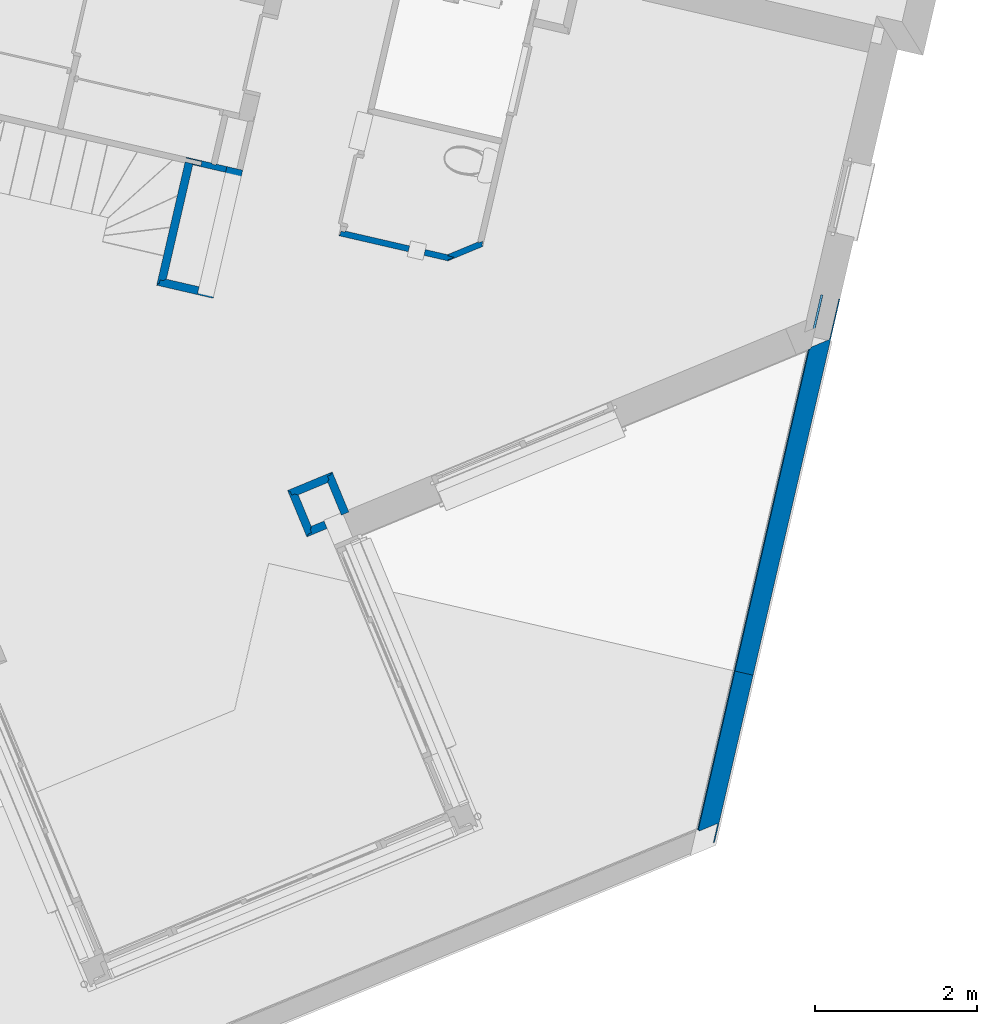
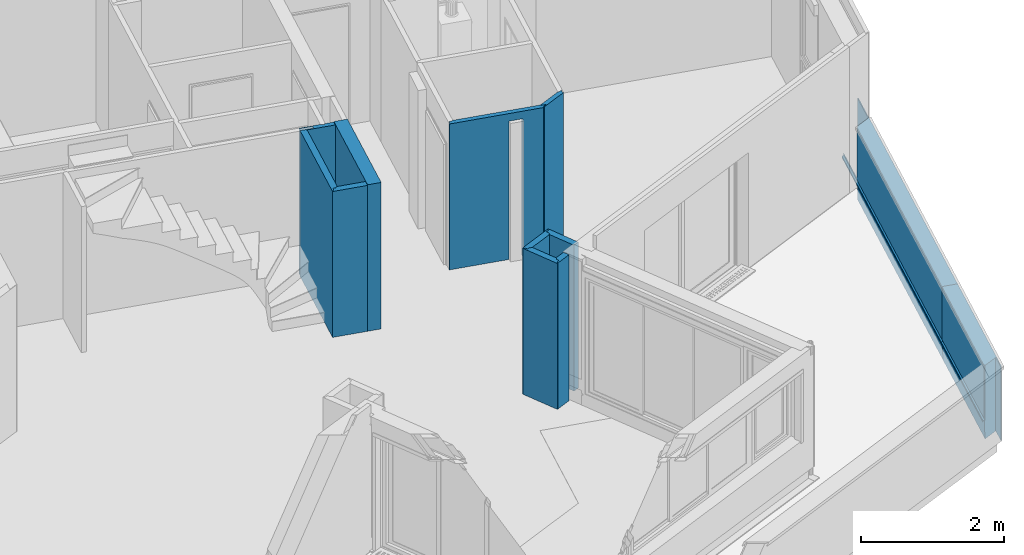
# One storey, part 23 of 62: 12 walls.
"""IFC2X3 building model written with IfcOpenShell, lengths in metres."""

from ifc_helpers import new_model, entity, si_unit, converted_unit, derived_unit, money_unit, direction, frame, origin_with_axes, place, context, subcontext, project, spatial, faceted_brep, material, material_list, type_object, element, save


model = new_model("IFC2X3")

# Units and contexts
model_context = context("Model", 3, precision=1e-05, world=origin_with_axes(), true_north=direction((0.0, 1.0)))
body_context = subcontext(model_context, "Body", "Model", "MODEL_VIEW")
ifc_project = project(units=[si_unit("LENGTHUNIT", "METRE"), si_unit("AREAUNIT", "SQUARE_METRE"), si_unit("VOLUMEUNIT", "CUBIC_METRE"), converted_unit("PLANEANGLEUNIT", "DEGREE", entity("IfcPlaneAngleMeasure", 0.0174532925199), si_unit("PLANEANGLEUNIT", "RADIAN"), dimensions=[0, 0, 0, 0, 0, 0, 0]), si_unit("SOLIDANGLEUNIT", "STERADIAN"), money_unit("EUR"), converted_unit("TIMEUNIT", "Year", entity("IfcTimeMeasure", 31556926.0), si_unit("TIMEUNIT", "SECOND"), dimensions=[0, 0, 1, 0, 0, 0, 0]), si_unit("MASSUNIT", "GRAM", prefix="KILO"), si_unit("THERMODYNAMICTEMPERATUREUNIT", "DEGREE_CELSIUS"), si_unit("LUMINOUSINTENSITYUNIT", "LUMEN"), si_unit("ENERGYUNIT", "JOULE", prefix="MEGA"), derived_unit("THERMALCONDUCTANCEUNIT", [(si_unit("POWERUNIT", "WATT"), 1), (si_unit("LENGTHUNIT", "METRE"), -1), (si_unit("THERMODYNAMICTEMPERATUREUNIT", "KELVIN"), -1)]), derived_unit("SPECIFICHEATCAPACITYUNIT", [(si_unit("ENERGYUNIT", "JOULE"), 1), (si_unit("MASSUNIT", "GRAM", prefix="KILO"), -1), (si_unit("THERMODYNAMICTEMPERATUREUNIT", "KELVIN"), -1)]), derived_unit("MASSDENSITYUNIT", [(si_unit("MASSUNIT", "GRAM", prefix="KILO"), 1), (si_unit("VOLUMEUNIT", "CUBIC_METRE"), -1)])], contexts=[model_context])

# Site, building, storey
site_placement = place(None, origin_with_axes())
site = spatial("IfcSite", under=ifc_project, at=site_placement, Name="Site", CompositionType="ELEMENT")
building_placement = place(site_placement, origin_with_axes())
building = spatial("IfcBuilding", under=site, at=building_placement, Name="Bâtiment", CompositionType="ELEMENT")
storey_placement = place(building_placement, frame((0.0, 0.0, 8.16), z_axis=(0.0, 0.0, 1.0), x_axis=(1.0, 0.0, 0.0)))
storey = spatial("IfcBuildingStorey", under=building, at=storey_placement, Name="R+3", CompositionType="ELEMENT", Elevation=8.16)

# Walls
ifc_material_1 = material(Name="Finition int - Plaque de plâtre")
ifc_material_2 = material(Name="Isolation - Laine de roche")
ifc_material_list_1 = material_list([ifc_material_1, ifc_material_2, ifc_material_1])
wall_type_1 = type_object("IfcWallType", Name="3 - Cloison 72mm Placostil 74", PredefinedType="USERDEFINED")
wall_1_placement = place(storey_placement, frame((-13.6505641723, -11.8454133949, 0.0), z_axis=(0.0, 0.0, 1.0), x_axis=(-0.974387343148, 0.224876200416, 0.0)))
element("IfcWall", 1, at=wall_1_placement, inside=storey, type_object=wall_type_1, material=ifc_material_list_1, Name="Cloison Placostil 72/48", ObjectType="PARTITIONING", context=body_context, shape_type="Brep", body=[
    faceted_brep([(0.0, -0.013, 2.5), (0.427359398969, -0.013, 2.5), (0.427359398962, 0.0, 2.5), (0.0, 0.0, 2.5), (0.0, -0.013, 0.0), (0.427359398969, -0.013, 0.0), (0.427359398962, 0.0, 0.0), (0.0, 0.0, 0.0)], [[[0, 1, 2, 3]], [[4, 5, 1, 0]], [[6, 2, 1, 5]], [[3, 2, 6, 7]], [[7, 4, 0, 3]], [[7, 6, 5, 4]]]),
    faceted_brep([(0.0, -0.061, 0.0), (0.314359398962, -0.061, 0.0), (0.314359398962, -0.061, 2.5), (0.0, -0.061, 2.5), (0.0, -0.013, 0.0), (0.314359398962, -0.013, 0.0), (0.314359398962, -0.013, 2.5), (0.0, -0.013, 2.5)], [[[0, 1, 2, 3]], [[4, 5, 1, 0]], [[5, 6, 2, 1]], [[3, 2, 6, 7]], [[4, 0, 3, 7]], [[7, 6, 5, 4]]]),
    faceted_brep([(0.185000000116, -0.074, 2.5), (0.501359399, -0.074, 2.5), (0.501359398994, -0.061, 2.5), (0.185000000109, -0.061, 2.5), (0.185000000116, -0.074, 0.0), (0.501359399, -0.074, 0.0), (0.501359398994, -0.061, 0.0), (0.185000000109, -0.061, 0.0)], [[[0, 1, 2, 3]], [[4, 5, 1, 0]], [[6, 2, 1, 5]], [[3, 2, 6, 7]], [[7, 4, 0, 3]], [[7, 6, 5, 4]]]),
    faceted_brep([(0.137000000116, -0.074, 2.5), (0.137000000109, -0.061, 2.5), (0.0, -0.061, 2.5), (0.0, -0.074, 2.5), (0.137000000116, -0.074, 0.0), (0.137000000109, -0.061, 0.0), (0.0, -0.061, 0.0), (0.0, -0.074, 0.0)], [[[0, 1, 2, 3]], [[1, 0, 4, 5]], [[1, 5, 6, 2]], [[7, 3, 2, 6]], [[4, 0, 3, 7]], [[5, 4, 7, 6]]]),
])
wall_2_placement = place(storey_placement, frame((-10.9081748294, -12.93707176, 0.0), z_axis=(0.0, 0.0, 1.0), x_axis=(0.923701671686, 0.383112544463, 0.0)))
element("IfcWall", 2, at=wall_2_placement, inside=storey, type_object=wall_type_1, material=ifc_material_list_1, Name="Cloison Placostil 72/48", ObjectType="PARTITIONING", context=body_context, shape_type="Brep", body=[
    faceted_brep([(0.441531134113, 0.074, 0.0), (0.432250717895, 0.061, 0.0), (0.0419137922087, 0.061, 0.0), (0.0237034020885, 0.074, 0.0), (0.441531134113, 0.074, 2.5), (0.432250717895, 0.061, 2.5), (0.0419137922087, 0.061, 2.5), (0.0237034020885, 0.074, 2.5)], [[[0, 1, 2, 3]], [[1, 0, 4, 5]], [[1, 5, 6, 2]], [[7, 3, 2, 6]], [[4, 0, 3, 7]], [[5, 4, 7, 6]]]),
    faceted_brep([(0.491226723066, 0.061, 0.0), (0.456960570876, 0.013, 0.0), (0.0867776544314, 0.013, 0.0), (0.0195392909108, 0.061, 0.0), (0.491226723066, 0.061, 2.5), (0.456960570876, 0.013, 2.5), (0.0867776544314, 0.013, 2.5), (0.0195392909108, 0.061, 2.5)], [[[0, 1, 2, 3]], [[1, 0, 4, 5]], [[1, 5, 6, 2]], [[7, 3, 2, 6]], [[4, 0, 3, 7]], [[5, 4, 7, 6]]]),
    faceted_brep([(0.472933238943, 0.013, 0.0), (0.463652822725, 0.0, 0.0), (0.0223745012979, 0.0, 0.0), (0.00416411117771, 0.013, 0.0), (0.472933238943, 0.013, 2.5), (0.463652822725, 0.0, 2.5), (0.0223745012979, 0.0, 2.5), (0.00416411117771, 0.013, 2.5)], [[[0, 1, 2, 3]], [[1, 0, 4, 5]], [[1, 5, 6, 2]], [[7, 3, 2, 6]], [[4, 0, 3, 7]], [[5, 4, 7, 6]]]),
])
wall_3_placement = place(storey_placement, frame((-12.1823202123, -12.6430152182, 0.0), z_axis=(0.0, 0.0, 1.0), x_axis=(0.974387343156, -0.224876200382, 0.0)))
element("IfcWall", 3, at=wall_3_placement, inside=storey, type_object=wall_type_1, material=ifc_material_list_1, Name="Cloison Placostil 72/48", ObjectType="PARTITIONING", context=body_context, shape_type="Brep", body=[
    faceted_brep([(0.804407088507, 0.074, 2.37), (0.804407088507, 0.074, 0.0), (-0.0130000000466, 0.074, 0.0), (-0.0130000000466, 0.074, 2.5), (1.30630855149, 0.074, 2.5), (1.30630855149, 0.074, 0.0), (1.00440708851, 0.074, 0.0), (1.00440708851, 0.074, 2.37), (0.804407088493, 0.061, 2.37), (0.804407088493, 0.061, 0.0), (-0.0130000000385, 0.061, 0.0), (-0.0130000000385, 0.061, 2.5), (1.28809816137, 0.061, 2.5), (1.28809816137, 0.061, 0.0), (1.00440708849, 0.061, 0.0), (1.00440708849, 0.061, 2.37)], [[[0, 1, 2, 3, 4, 5, 6, 7]], [[1, 0, 8, 9]], [[1, 9, 10, 2]], [[11, 3, 2, 10]], [[11, 12, 4, 3]], [[12, 13, 5, 4]], [[14, 6, 5, 13]], [[7, 6, 14, 15]], [[0, 7, 15, 8]], [[15, 14, 13, 12, 11, 10, 9, 8]]]),
    faceted_brep([(0.804407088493, 0.061, 2.37), (0.804407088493, 0.061, 0.0), (-0.0610000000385, 0.061, 0.0), (-0.0610000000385, 0.061, 2.5), (1.37071170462, 0.061, 2.5), (1.37071170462, 0.061, 0.0), (1.00440708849, 0.061, 0.0), (1.00440708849, 0.061, 2.37), (0.804407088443, 0.013, 2.37), (0.804407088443, 0.013, 0.0), (-0.0610000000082, 0.013, 0.0), (-0.0610000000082, 0.013, 2.5), (1.3034733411, 0.013, 2.5), (1.3034733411, 0.013, 0.0), (1.00440708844, 0.013, 0.0), (1.00440708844, 0.013, 2.37)], [[[0, 1, 2, 3, 4, 5, 6, 7]], [[1, 0, 8, 9]], [[1, 9, 10, 2]], [[11, 3, 2, 10]], [[11, 12, 4, 3]], [[12, 13, 5, 4]], [[14, 6, 5, 13]], [[7, 6, 14, 15]], [[0, 7, 15, 8]], [[15, 14, 13, 12, 11, 10, 9, 8]]]),
    faceted_brep([(0.804407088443, 0.013, 2.37), (0.804407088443, 0.013, 0.0), (-0.0740000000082, 0.013, 0.0), (-0.0740000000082, 0.013, 2.5), (1.3258478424, 0.013, 2.5), (1.3258478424, 0.013, 0.0), (1.00440708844, 0.013, 0.0), (1.00440708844, 0.013, 2.37), (0.804407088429, 0.0, 2.37), (0.804407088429, 0.0, 0.0), (-0.074, 0.0, 0.0), (-0.074, 0.0, 2.5), (1.30763745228, 0.0, 2.5), (1.30763745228, 0.0, 0.0), (1.00440708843, 0.0, 0.0), (1.00440708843, 0.0, 2.37)], [[[0, 1, 2, 3, 4, 5, 6, 7]], [[1, 0, 8, 9]], [[1, 9, 10, 2]], [[11, 3, 2, 10]], [[11, 12, 4, 3]], [[12, 13, 5, 4]], [[14, 6, 5, 13]], [[7, 6, 14, 15]], [[0, 7, 15, 8]], [[15, 14, 13, 12, 11, 10, 9, 8]]]),
])
ifc_material_3 = material(Name="Finition int - Enduit plâtre")
ifc_material_4 = material(Name="Béton")
ifc_material_list_2 = material_list([ifc_material_3, ifc_material_4, ifc_material_3])
wall_type_2 = type_object("IfcWallType", Name="2 - Murs Béton 18 + Enduit 2 Faces 200", PredefinedType="USERDEFINED")
wall_4_placement = place(storey_placement, frame((-13.4487897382, -11.8160352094, 0.0), z_axis=(0.0, 0.0, 1.0), x_axis=(-0.22487619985, -0.974387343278, 0.0)))
element("IfcWall", 4, at=wall_4_placement, inside=storey, type_object=wall_type_2, material=ifc_material_list_2, Name="M_Ext-009", ObjectType="SOLIDWALL", context=body_context, shape_type="Brep", body=[
    faceted_brep([(0.0, 0.0, 2.51), (0.0, 0.01, 2.51), (0.0, 0.01, 0.0), (0.0, 0.0, 0.0), (1.62099999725, 0.01, 2.51), (1.62099999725, 0.0, 2.51), (1.62099999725, 0.01, 0.0), (1.62099999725, 0.0, 0.0)], [[[0, 1, 2, 3]], [[4, 1, 0, 5]], [[1, 4, 6, 2]], [[2, 6, 7, 3]], [[5, 0, 3, 7]], [[4, 5, 7, 6]]]),
    faceted_brep([(0.0, -0.18, 2.51), (0.0, 0.0, 2.51), (0.0, 0.0, 0.0), (0.0, -0.18, 0.0), (1.62099999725, 0.0, 2.51), (1.62099999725, -0.18, 2.51), (1.62099999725, 0.0, 0.0), (1.62099999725, -0.18, 0.0)], [[[0, 1, 2, 3]], [[4, 1, 0, 5]], [[1, 4, 6, 2]], [[2, 6, 7, 3]], [[5, 0, 3, 7]], [[4, 5, 7, 6]]]),
    faceted_brep([(0.0, -0.19, 2.51), (0.0, -0.18, 2.51), (0.0, -0.18, 0.0), (0.0, -0.19, 0.0), (1.62099999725, -0.18, 2.51), (1.62099999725, -0.19, 2.51), (1.62099999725, -0.18, 0.0), (1.62099999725, -0.19, 0.0)], [[[0, 1, 2, 3]], [[4, 1, 0, 5]], [[1, 4, 6, 2]], [[2, 6, 7, 3]], [[5, 0, 3, 7]], [[4, 5, 7, 6]]]),
])
ifc_material_list_3 = material_list([ifc_material_1, ifc_material_1, ifc_material_2, ifc_material_1, ifc_material_1])
wall_type_3 = type_object("IfcWallType", Name="3 - Cloison Gaine Technique 98mm 100", PredefinedType="USERDEFINED")
wall_5_placement = place(storey_placement, frame((-14.4771453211, -13.1396846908, 0.0), z_axis=(0.0, 0.0, 1.0), x_axis=(0.224876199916, 0.974387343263, 0.0)))
element("IfcWall", 5, at=wall_5_placement, inside=storey, type_object=wall_type_3, material=ifc_material_list_3, Name="Cloison 98 isolée", ObjectType="PARTITIONING", context=body_context, shape_type="Brep", body=[
    faceted_brep([(-0.087, -0.013, 0.0), (1.45999999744, -0.013, 0.0), (1.45999999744, -0.013, 2.5), (-0.087, -0.013, 2.5), (-0.087, 0.0, 0.0), (1.45999999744, 0.0, 0.0), (1.45999999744, 0.0, 2.5), (-0.087, 0.0, 2.5)], [[[0, 1, 2, 3]], [[4, 5, 1, 0]], [[5, 6, 2, 1]], [[3, 2, 6, 7]], [[4, 0, 3, 7]], [[7, 6, 5, 4]]]),
    faceted_brep([(1.52099999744, 0.0, 2.5), (1.50799999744, 0.0, 2.5), (1.50799999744, -0.013, 2.5), (1.52099999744, -0.013, 2.5), (1.52099999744, 0.0, 0.0), (1.50799999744, 0.0, 0.0), (1.50799999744, -0.013, 0.0), (1.52099999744, -0.013, 0.0)], [[[0, 1, 2, 3]], [[4, 5, 1, 0]], [[5, 6, 2, 1]], [[3, 2, 6, 7]], [[4, 0, 3, 7]], [[7, 6, 5, 4]]]),
    faceted_brep([(-0.074, -0.026, 0.0), (1.45999999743, -0.026, 0.0), (1.45999999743, -0.026, 2.5), (-0.074, -0.026, 2.5), (-0.074, -0.013, 0.0), (1.45999999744, -0.013, 0.0), (1.45999999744, -0.013, 2.5), (-0.074, -0.013, 2.5)], [[[0, 1, 2, 3]], [[4, 5, 1, 0]], [[5, 6, 2, 1]], [[3, 2, 6, 7]], [[4, 0, 3, 7]], [[7, 6, 5, 4]]]),
    faceted_brep([(-0.026, -0.074, 2.5), (1.4599999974, -0.074, 2.5), (1.45999999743, -0.026, 2.5), (-0.026, -0.026, 2.5), (-0.026, -0.074, 0.0), (1.4599999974, -0.074, 0.0), (1.45999999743, -0.026, 0.0), (-0.026, -0.026, 0.0)], [[[0, 1, 2, 3]], [[4, 5, 1, 0]], [[6, 2, 1, 5]], [[3, 2, 6, 7]], [[7, 4, 0, 3]], [[7, 6, 5, 4]]]),
    faceted_brep([(-0.013, -0.087, 2.5), (1.4599999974, -0.087, 2.5), (1.4599999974, -0.074, 2.5), (-0.013, -0.074, 2.5), (-0.013, -0.087, 0.0), (1.4599999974, -0.087, 0.0), (1.4599999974, -0.074, 0.0), (-0.013, -0.074, 0.0)], [[[0, 1, 2, 3]], [[4, 5, 1, 0]], [[6, 2, 1, 5]], [[3, 2, 6, 7]], [[7, 4, 0, 3]], [[7, 6, 5, 4]]]),
    faceted_brep([(0.0, -0.1, 2.5), (1.44699999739, -0.1, 2.5), (1.4469999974, -0.087, 2.5), (0.0, -0.087, 2.5), (0.0, -0.1, 0.0), (1.44699999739, -0.1, 0.0), (1.4469999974, -0.087, 0.0), (0.0, -0.087, 0.0)], [[[0, 1, 2, 3]], [[4, 5, 1, 0]], [[6, 2, 1, 5]], [[3, 2, 6, 7]], [[7, 4, 0, 3]], [[7, 6, 5, 4]]]),
])
wall_6_placement = place(storey_placement, frame((-12.33506708, -15.5385086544, 0.0), z_axis=(0.0, 0.0, 1.0), x_axis=(-0.923701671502, -0.383112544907, 0.0)))
element("IfcWall", 6, at=wall_6_placement, inside=storey, type_object=wall_type_3, material=ifc_material_list_3, Name="Cloison 98 isolée", ObjectType="PARTITIONING", context=body_context, shape_type="Brep", body=[
    faceted_brep([(0.50901583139, 0.1, 0.0), (0.509015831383, 0.087, 0.0), (0.100000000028, 0.087, 0.0), (0.100000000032, 0.1, 0.0), (0.50901583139, 0.1, 2.5), (0.509015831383, 0.087, 2.5), (0.100000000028, 0.087, 2.5), (0.100000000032, 0.1, 2.5)], [[[0, 1, 2, 3]], [[1, 0, 4, 5]], [[1, 5, 6, 2]], [[7, 3, 2, 6]], [[4, 0, 3, 7]], [[5, 4, 7, 6]]]),
    faceted_brep([(0.522015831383, 0.087, 0.0), (0.522015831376, 0.074, 0.0), (0.0870000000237, 0.074, 0.0), (0.0870000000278, 0.087, 0.0), (0.522015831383, 0.087, 2.5), (0.522015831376, 0.074, 2.5), (0.0870000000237, 0.074, 2.5), (0.0870000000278, 0.087, 2.5)], [[[0, 1, 2, 3]], [[1, 0, 4, 5]], [[1, 5, 6, 2]], [[7, 3, 2, 6]], [[4, 0, 3, 7]], [[5, 4, 7, 6]]]),
    faceted_brep([(0.570015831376, 0.074, 0.0), (0.570015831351, 0.026, 0.0), (0.0740000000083, 0.026, 0.0), (0.0740000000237, 0.074, 0.0), (0.570015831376, 0.074, 2.5), (0.570015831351, 0.026, 2.5), (0.0740000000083, 0.026, 2.5), (0.0740000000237, 0.074, 2.5)], [[[0, 1, 2, 3]], [[1, 0, 4, 5]], [[1, 5, 6, 2]], [[7, 3, 2, 6]], [[4, 0, 3, 7]], [[5, 4, 7, 6]]]),
    faceted_brep([(0.583015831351, 0.026, 0.0), (0.583015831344, 0.013, 0.0), (0.0260000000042, 0.013, 0.0), (0.0260000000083, 0.026, 0.0), (0.583015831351, 0.026, 2.5), (0.583015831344, 0.013, 2.5), (0.0260000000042, 0.013, 2.5), (0.0260000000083, 0.026, 2.5)], [[[0, 1, 2, 3]], [[1, 0, 4, 5]], [[1, 5, 6, 2]], [[7, 3, 2, 6]], [[4, 0, 3, 7]], [[5, 4, 7, 6]]]),
    faceted_brep([(0.596015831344, 0.013, 0.0), (0.596015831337, 0.0, 0.0), (0.013, 0.0, 0.0), (0.0130000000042, 0.013, 0.0), (0.596015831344, 0.013, 2.5), (0.596015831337, 0.0, 2.5), (0.013, 0.0, 2.5), (0.0130000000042, 0.013, 2.5)], [[[0, 1, 2, 3]], [[1, 0, 4, 5]], [[1, 5, 6, 2]], [[7, 3, 2, 6]], [[4, 0, 3, 7]], [[5, 4, 7, 6]]]),
])
wall_7_placement = place(storey_placement, frame((-12.8856078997, -15.7668497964, 0.0), z_axis=(0.0, 0.0, 1.0), x_axis=(0.383112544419, -0.923701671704, 0.0)))
element("IfcWall", 7, at=wall_7_placement, inside=storey, type_object=wall_type_3, material=ifc_material_list_3, Name="Cloison 98 isolée", ObjectType="PARTITIONING", context=body_context, shape_type="Brep", body=[
    faceted_brep([(0.532999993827, 0.1, 0.0), (0.532999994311, 0.087, 0.0), (0.0999999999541, 0.087, 0.0), (0.0999999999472, 0.1, 0.0), (0.532999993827, 0.1, 2.5), (0.532999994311, 0.087, 2.5), (0.0999999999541, 0.087, 2.5), (0.0999999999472, 0.1, 2.5)], [[[0, 1, 2, 3]], [[1, 0, 4, 5]], [[1, 5, 6, 2]], [[7, 3, 2, 6]], [[4, 0, 3, 7]], [[5, 4, 7, 6]]]),
    faceted_brep([(0.545999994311, 0.087, 0.0), (0.545999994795, 0.074, 0.0), (0.0869999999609, 0.074, 0.0), (0.0869999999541, 0.087, 0.0), (0.545999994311, 0.087, 2.5), (0.545999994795, 0.074, 2.5), (0.0869999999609, 0.074, 2.5), (0.0869999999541, 0.087, 2.5)], [[[0, 1, 2, 3]], [[1, 0, 4, 5]], [[1, 5, 6, 2]], [[7, 3, 2, 6]], [[4, 0, 3, 7]], [[5, 4, 7, 6]]]),
    faceted_brep([(0.593999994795, 0.074, 0.0), (0.593999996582, 0.026, 0.0), (0.0739999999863, 0.026, 0.0), (0.0739999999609, 0.074, 0.0), (0.593999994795, 0.074, 2.5), (0.593999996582, 0.026, 2.5), (0.0739999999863, 0.026, 2.5), (0.0739999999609, 0.074, 2.5)], [[[0, 1, 2, 3]], [[1, 0, 4, 5]], [[1, 5, 6, 2]], [[7, 3, 2, 6]], [[4, 0, 3, 7]], [[5, 4, 7, 6]]]),
    faceted_brep([(0.606999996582, 0.026, 0.0), (0.606999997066, 0.013, 0.0), (0.0259999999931, 0.013, 0.0), (0.0259999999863, 0.026, 0.0), (0.606999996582, 0.026, 2.5), (0.606999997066, 0.013, 2.5), (0.0259999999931, 0.013, 2.5), (0.0259999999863, 0.026, 2.5)], [[[0, 1, 2, 3]], [[1, 0, 4, 5]], [[1, 5, 6, 2]], [[7, 3, 2, 6]], [[4, 0, 3, 7]], [[5, 4, 7, 6]]]),
    faceted_brep([(0.619999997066, 0.013, 0.0), (0.619999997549, 0.0, 0.0), (0.013, 0.0, 0.0), (0.0129999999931, 0.013, 0.0), (0.619999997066, 0.013, 2.5), (0.619999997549, 0.0, 2.5), (0.013, 0.0, 2.5), (0.0129999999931, 0.013, 2.5)], [[[0, 1, 2, 3]], [[1, 0, 4, 5]], [[1, 5, 6, 2]], [[7, 3, 2, 6]], [[4, 0, 3, 7]], [[5, 4, 7, 6]]]),
])
wall_8_placement = place(storey_placement, frame((-12.1301018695, -16.0326890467, 0.0), z_axis=(0.0, 0.0, 1.0), x_axis=(-0.383112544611, 0.923701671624, 0.0)))
element("IfcWall", 8, at=wall_8_placement, inside=storey, type_object=wall_type_3, material=ifc_material_list_3, Name="Cloison 98 isolée", ObjectType="PARTITIONING", context=body_context, shape_type="Brep", body=[
    faceted_brep([(0.447999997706, 0.1, 0.0), (0.44799999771, 0.087, 0.0), (0.0, 0.087, 0.0), (0.0, 0.1, 0.0), (0.447999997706, 0.1, 2.5), (0.44799999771, 0.087, 2.5), (0.0, 0.087, 2.5), (0.0, 0.1, 2.5)], [[[0, 1, 2, 3]], [[1, 0, 4, 5]], [[1, 5, 6, 2]], [[7, 3, 2, 6]], [[4, 0, 3, 7]], [[5, 4, 7, 6]]]),
    faceted_brep([(0.46099999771, 0.087, 0.0), (0.460999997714, 0.074, 0.0), (0.0, 0.074, 0.0), (0.0, 0.087, 0.0), (0.46099999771, 0.087, 2.5), (0.460999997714, 0.074, 2.5), (0.0, 0.074, 2.5), (0.0, 0.087, 2.5)], [[[0, 1, 2, 3]], [[1, 0, 4, 5]], [[1, 5, 6, 2]], [[7, 3, 2, 6]], [[4, 0, 3, 7]], [[5, 4, 7, 6]]]),
    faceted_brep([(0.508999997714, 0.074, 0.0), (0.50899999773, 0.026, 0.0), (0.0, 0.026, 0.0), (0.0, 0.074, 0.0), (0.508999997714, 0.074, 2.5), (0.50899999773, 0.026, 2.5), (0.0, 0.026, 2.5), (0.0, 0.074, 2.5)], [[[0, 1, 2, 3]], [[1, 0, 4, 5]], [[1, 5, 6, 2]], [[7, 3, 2, 6]], [[4, 0, 3, 7]], [[5, 4, 7, 6]]]),
    faceted_brep([(0.52199999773, 0.026, 0.0), (0.521999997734, 0.013, 0.0), (0.0, 0.013, 0.0), (0.0, 0.026, 0.0), (0.52199999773, 0.026, 2.5), (0.521999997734, 0.013, 2.5), (0.0, 0.013, 2.5), (0.0, 0.026, 2.5)], [[[0, 1, 2, 3]], [[1, 0, 4, 5]], [[1, 5, 6, 2]], [[7, 3, 2, 6]], [[4, 0, 3, 7]], [[5, 4, 7, 6]]]),
    faceted_brep([(0.534999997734, 0.013, 0.0), (0.534999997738, 0.0, 0.0), (0.0, 0.0, 0.0), (0.0, 0.013, 0.0), (0.534999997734, 0.013, 2.5), (0.534999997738, 0.0, 2.5), (0.0, 0.0, 2.5), (0.0, 0.013, 2.5)], [[[0, 1, 2, 3]], [[1, 0, 4, 5]], [[1, 5, 6, 2]], [[7, 3, 2, 6]], [[4, 0, 3, 7]], [[5, 4, 7, 6]]]),
])
wall_9_placement = place(storey_placement, frame((-14.4771453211, -13.1396846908, 0.0), z_axis=(0.0, 0.0, 1.0), x_axis=(0.974387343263, -0.224876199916, 0.0)))
element("IfcWall", 9, at=wall_9_placement, inside=storey, type_object=wall_type_3, material=ifc_material_list_3, Name="Cloison 98 isolée", ObjectType="PARTITIONING", context=body_context, shape_type="Brep", body=[
    faceted_brep([(0.087, -0.013, 2.5), (0.514359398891, -0.013, 2.5), (0.514359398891, 0.0, 2.5), (0.087, 0.0, 2.5), (0.087, -0.013, 0.0), (0.514359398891, -0.013, 0.0), (0.514359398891, 0.0, 0.0), (0.087, 0.0, 0.0)], [[[0, 1, 2, 3]], [[4, 5, 1, 0]], [[2, 1, 5, 6]], [[3, 2, 6, 7]], [[4, 0, 3, 7]], [[7, 6, 5, 4]]]),
    faceted_brep([(0.074, -0.026, 2.5), (0.514359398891, -0.026, 2.5), (0.514359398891, -0.013, 2.5), (0.074, -0.013, 2.5), (0.074, -0.026, 0.0), (0.514359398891, -0.026, 0.0), (0.514359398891, -0.013, 0.0), (0.074, -0.013, 0.0)], [[[0, 1, 2, 3]], [[4, 5, 1, 0]], [[2, 1, 5, 6]], [[3, 2, 6, 7]], [[4, 0, 3, 7]], [[7, 6, 5, 4]]]),
    faceted_brep([(0.026, -0.074, 2.5), (0.514359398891, -0.074, 2.5), (0.514359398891, -0.026, 2.5), (0.026, -0.026, 2.5), (0.026, -0.074, 0.0), (0.514359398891, -0.074, 0.0), (0.514359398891, -0.026, 0.0), (0.026, -0.026, 0.0)], [[[0, 1, 2, 3]], [[4, 5, 1, 0]], [[2, 1, 5, 6]], [[3, 2, 6, 7]], [[4, 0, 3, 7]], [[7, 6, 5, 4]]]),
    faceted_brep([(0.013, -0.087, 2.5), (0.514359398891, -0.087, 2.5), (0.514359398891, -0.074, 2.5), (0.013, -0.074, 2.5), (0.013, -0.087, 0.0), (0.514359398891, -0.087, 0.0), (0.514359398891, -0.074, 0.0), (0.013, -0.074, 0.0)], [[[0, 1, 2, 3]], [[4, 5, 1, 0]], [[2, 1, 5, 6]], [[3, 2, 6, 7]], [[4, 0, 3, 7]], [[7, 6, 5, 4]]]),
    faceted_brep([(0.0, -0.1, 2.5), (0.514359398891, -0.1, 2.5), (0.514359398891, -0.087, 2.5), (0.0, -0.087, 2.5), (0.0, -0.1, 0.0), (0.514359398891, -0.1, 0.0), (0.514359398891, -0.087, 0.0), (0.0, -0.087, 0.0)], [[[0, 1, 2, 3]], [[4, 5, 1, 0]], [[2, 1, 5, 6]], [[3, 2, 6, 7]], [[4, 0, 3, 7]], [[7, 6, 5, 4]]]),
])
wall_10_placement = place(storey_placement, frame((-12.436051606, -16.1433450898, 0.0), z_axis=(0.0, 0.0, 1.0), x_axis=(-0.923701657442, -0.383112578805, 0.0)))
element("IfcWall", 10, at=wall_10_placement, inside=storey, type_object=wall_type_3, material=ifc_material_list_3, Name="Cloison 98 isolée", ObjectType="PARTITIONING", context=body_context, shape_type="Brep", body=[
    faceted_brep([(0.258015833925, 0.1, 0.0), (0.258015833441, 0.087, 0.0), (0.0, 0.087, 0.0), (0.0, 0.1, 0.0), (0.258015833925, 0.1, 2.5), (0.258015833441, 0.087, 2.5), (0.0, 0.087, 2.5), (0.0, 0.1, 2.5)], [[[0, 1, 2, 3]], [[1, 0, 4, 5]], [[1, 5, 6, 2]], [[7, 3, 2, 6]], [[4, 0, 3, 7]], [[5, 4, 7, 6]]]),
    faceted_brep([(0.245015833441, 0.087, 0.0), (0.245015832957, 0.074, 0.0), (0.0, 0.074, 0.0), (0.0, 0.087, 0.0), (0.245015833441, 0.087, 2.5), (0.245015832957, 0.074, 2.5), (0.0, 0.074, 2.5), (0.0, 0.087, 2.5)], [[[0, 1, 2, 3]], [[1, 0, 4, 5]], [[1, 5, 6, 2]], [[7, 3, 2, 6]], [[4, 0, 3, 7]], [[5, 4, 7, 6]]]),
    faceted_brep([(0.197015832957, 0.074, 0.0), (0.19701583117, 0.026, 0.0), (0.0, 0.026, 0.0), (0.0, 0.074, 0.0), (0.197015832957, 0.074, 2.5), (0.19701583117, 0.026, 2.5), (0.0, 0.026, 2.5), (0.0, 0.074, 2.5)], [[[0, 1, 2, 3]], [[1, 0, 4, 5]], [[1, 5, 6, 2]], [[7, 3, 2, 6]], [[4, 0, 3, 7]], [[5, 4, 7, 6]]]),
    faceted_brep([(0.18401583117, 0.026, 0.0), (0.184015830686, 0.013, 0.0), (0.0, 0.013, 0.0), (0.0, 0.026, 0.0), (0.18401583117, 0.026, 2.5), (0.184015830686, 0.013, 2.5), (0.0, 0.013, 2.5), (0.0, 0.026, 2.5)], [[[0, 1, 2, 3]], [[1, 0, 4, 5]], [[1, 5, 6, 2]], [[7, 3, 2, 6]], [[4, 0, 3, 7]], [[5, 4, 7, 6]]]),
    faceted_brep([(0.171015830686, 0.013, 0.0), (0.171015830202, 0.0, 0.0), (0.0, 0.0, 0.0), (0.0, 0.013, 0.0), (0.171015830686, 0.013, 2.5), (0.171015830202, 0.0, 2.5), (0.0, 0.0, 2.5), (0.0, 0.013, 2.5)], [[[0, 1, 2, 3]], [[1, 0, 4, 5]], [[1, 5, 6, 2]], [[7, 3, 2, 6]], [[4, 0, 3, 7]], [[5, 4, 7, 6]]]),
])
ifc_material_5 = material(Name="Finition ext - Crépis")
ifc_material_6 = material(Name="Etanchéité - Bitume")
ifc_material_7 = material(Name="Métal - Aluminium")
ifc_material_list_4 = material_list([ifc_material_5, ifc_material_4, ifc_material_6, ifc_material_5, ifc_material_7])
wall_type_4 = type_object("IfcWallType", Name="Acrotère pour plancher 23 isolée 242 x 1260", PredefinedType="USERDEFINED")
wall_11_placement = place(storey_placement, frame((-6.19337514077, -13.9168170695, 0.0), z_axis=(0.0, 0.0, 1.0), x_axis=(-0.224876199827, -0.974387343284, 0.0)))
element("IfcWall", 11, at=wall_11_placement, inside=storey, type_object=wall_type_4, material=ifc_material_list_4, Name="Muret béton 20cm", ObjectType="PARAPET", context=body_context, shape_type="Brep", body=[
    faceted_brep([(4.2366389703, 0.0, 1.26000604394), (-0.523890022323, 0.0, 1.26000604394), (-0.523890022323, -0.0149999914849, 1.26000604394), (4.2366389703, -0.0149999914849, 1.26000604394), (4.2366389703, 0.0, 0.0), (-0.523890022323, 0.0, 0.0), (-0.523890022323, -0.0149999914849, 0.0), (4.2366389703, -0.0149999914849, 0.0)], [[[0, 1, 2, 3]], [[4, 5, 1, 0]], [[1, 5, 6, 2]], [[3, 2, 6, 7]], [[7, 4, 0, 3]], [[7, 6, 5, 4]]]),
    faceted_brep([(-0.00772183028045, -0.0150000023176, 0.0), (-0.00772182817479, -0.0150000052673, 1.26000604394), (4.2366389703, -0.015, 1.26000604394), (4.2366389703, -0.015, 0.0), (0.135053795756, -0.214999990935, 0.318976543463), (0.135053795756, -0.214999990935, 1.26000604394), (0.135053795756, -0.214999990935, 0.0), (0.135053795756, -0.214999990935, 0.100000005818), (0.135053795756, -0.214999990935, 0.30999999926), (4.2366389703, -0.21499999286, 1.26000604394), (4.2366389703, -0.21499999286, 0.100000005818), (4.2366389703, -0.21499999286, 0.0), (4.2366389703, -0.21499999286, 0.318976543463), (4.2366389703, -0.21499999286, 0.30999999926)], [[[0, 1, 2, 3]], [[4, 5, 1, 0, 6, 7, 8]], [[2, 1, 5, 9]], [[10, 11, 3, 2, 9, 12, 13]], [[11, 6, 0, 3]], [[9, 5, 4, 12]], [[10, 7, 6, 11]], [[13, 8, 7, 10]], [[12, 4, 8, 13]]]),
    faceted_brep([(4.2366389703, -0.214999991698, 0.11), (0.153483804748, -0.214999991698, 0.11), (0.153483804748, -0.21499999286, 0.282882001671), (0.135053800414, -0.214999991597, 0.282882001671), (0.135053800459, -0.214999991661, 0.30999999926), (4.2366389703, -0.21499999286, 0.30999999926), (0.160622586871, -0.224999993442, 0.11), (4.2366389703, -0.224999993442, 0.11), (0.160622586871, -0.224999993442, 0.282882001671), (0.142192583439, -0.224999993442, 0.282882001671), (0.142192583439, -0.224999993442, 0.30999999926), (4.2366389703, -0.224999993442, 0.30999999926)], [[[0, 1, 2, 3, 4, 5]], [[6, 1, 0, 7]], [[1, 6, 8, 2]], [[8, 9, 3, 2]], [[9, 10, 4, 3]], [[5, 4, 10, 11]], [[7, 0, 5, 11]], [[6, 7, 11, 10, 9, 8]]]),
    faceted_brep([(0.153483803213, -0.21499999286, 0.357041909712), (0.153483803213, -0.21499999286, 1.26000604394), (4.2366389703, -0.21499999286, 1.26000604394), (4.2366389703, -0.21499999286, 0.357041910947), (0.1641919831, -0.230000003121, 1.26000604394), (0.154230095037, -0.216045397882, 0.357041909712), (0.1641919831, -0.230000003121, 0.357041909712), (4.2366389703, -0.230000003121, 1.26000604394), (4.2366389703, -0.230000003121, 0.357041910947), (4.2366389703, -0.216045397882, 0.357041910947)], [[[0, 1, 2, 3]], [[4, 1, 0, 5, 6]], [[1, 4, 7, 2]], [[3, 2, 7, 8, 9]], [[5, 0, 3, 9]], [[6, 5, 9, 8]], [[4, 6, 8, 7]]]),
    faceted_brep([(-0.523890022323, -0.242484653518, 0.312179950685), (4.2366389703, -0.242484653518, 0.312179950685), (4.2366389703, -0.216045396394, 0.320023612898), (-0.523890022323, -0.216045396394, 0.320023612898), (-0.523890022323, -0.242484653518, 0.282882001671), (4.2366389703, -0.242484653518, 0.282882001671), (4.2366389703, -0.241250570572, 0.282882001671), (4.2366389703, -0.241250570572, 0.311101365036), (4.2366389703, -0.215, 0.318976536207), (4.2366389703, -0.215, 0.357041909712), (4.2366389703, -0.216045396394, 0.357041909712), (-0.523890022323, -0.216045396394, 0.357041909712), (-0.523890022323, -0.215, 0.357041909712), (-0.523890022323, -0.215, 0.318976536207), (-0.523890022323, -0.241250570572, 0.311101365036), (-0.523890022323, -0.241250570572, 0.282882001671)], [[[0, 1, 2, 3]], [[4, 5, 1, 0]], [[2, 1, 5, 6, 7, 8, 9, 10]], [[3, 2, 10, 11]], [[4, 0, 3, 11, 12, 13, 14, 15]], [[15, 6, 5, 4]], [[14, 7, 6, 15]], [[13, 8, 7, 14]], [[12, 9, 8, 13]], [[11, 10, 9, 12]]]),
])
wall_12_placement = place(storey_placement, frame((-7.14609441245, -18.0449444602, 0.0), z_axis=(0.0, 0.0, 1.0), x_axis=(-0.224876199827, -0.974387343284, 0.0)))
element("IfcWall", 12, at=wall_12_placement, inside=storey, type_object=wall_type_4, material=ifc_material_list_4, Name="Muret béton 20cm", ObjectType="PARAPET", context=body_context, shape_type="Brep", body=[
    faceted_brep([(0.0, -0.0149999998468, 1.26000201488), (2.1239902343, -0.0149999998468, 1.26000604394), (2.11328206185, 0.0, 1.26000604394), (0.0, 0.0, 1.26000201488), (0.0, -0.0149999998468, 0.0), (2.1239902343, -0.0149999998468, 0.0), (2.11328206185, 0.0, 0.0), (0.0, 0.0, 0.0)], [[[0, 1, 2, 3]], [[1, 0, 4, 5]], [[6, 2, 1, 5]], [[3, 2, 6, 7]], [[3, 7, 4, 0]], [[7, 6, 5, 4]]]),
    faceted_brep([(0.0, -0.214999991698, 1.26000201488), (2.02103250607, -0.214999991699, 1.26000604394), (1.87825687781, -0.0150000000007, 1.26000604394), (0.0, -0.015, 1.26000201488), (2.02103250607, -0.214999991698, 0.318976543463), (0.0, -0.214999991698, 0.318976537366), (1.87825687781, -0.015, 0.318976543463), (1.87825687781, -0.015, 0.0), (0.0, -0.015, 0.0), (0.0, -0.214999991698, 0.310000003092), (0.0, -0.214999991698, 0.0), (0.0, -0.214999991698, 0.100000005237), (2.02103250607, -0.214999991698, 0.30999999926), (2.02103250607, -0.214999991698, 0.100000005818), (2.02103250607, -0.214999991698, 0.0)], [[[0, 1, 2, 3]], [[4, 1, 0, 5]], [[6, 2, 1, 4]], [[3, 2, 6, 7, 8]], [[9, 5, 0, 3, 8, 10, 11]], [[9, 12, 4, 5]], [[7, 6, 4, 12, 13, 14]], [[8, 7, 14, 10]], [[10, 14, 13, 11]], [[13, 12, 9, 11]]]),
    faceted_brep([(2.00874583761, -0.214999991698, 0.11), (0.0, -0.214999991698, 0.11), (0.0, -0.214999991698, 0.310000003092), (2.00874583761, -0.214999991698, 0.30999999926), (0.0, -0.224999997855, 0.11), (2.01588462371, -0.224999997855, 0.11), (0.0, -0.224999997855, 0.310000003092), (2.01588462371, -0.224999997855, 0.30999999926)], [[[0, 1, 2, 3]], [[4, 1, 0, 5]], [[1, 4, 6, 2]], [[6, 7, 3, 2]], [[5, 0, 3, 7]], [[4, 5, 7, 6]]]),
    faceted_brep([(2.0133106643, -0.229999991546, 1.26000604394), (2.00260249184, -0.214999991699, 1.26000604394), (0.0, -0.214999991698, 1.26000201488), (0.0, -0.229999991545, 1.26000201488), (2.00260249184, -0.214999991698, 0.357041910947), (2.0133106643, -0.229999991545, 0.357041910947), (2.00334878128, -0.216045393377, 0.357041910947), (0.0, -0.214999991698, 0.357041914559), (0.0, -0.229999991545, 0.357041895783), (0.0, -0.216045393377, 0.357041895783)], [[[0, 1, 2, 3]], [[4, 1, 0, 5, 6]], [[1, 4, 7, 2]], [[8, 3, 2, 7, 9]], [[5, 0, 3, 8]], [[6, 5, 8, 9]], [[4, 6, 9, 7]]]),
    faceted_brep([(2.0197480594, -0.215, 0.357041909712), (2.0197480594, -0.215, 0.320023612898), (2.01541155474, -0.215000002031, 0.318976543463), (0.0, -0.215, 0.318976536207), (0.0, -0.215, 0.357041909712), (2.02049434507, -0.216045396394, 0.357041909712), (2.02049434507, -0.216045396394, 0.320023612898), (2.01867742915, -0.219574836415, 0.318976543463), (2.00343613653, -0.237655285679, 0.312179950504), (2.00600273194, -0.241250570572, 0.311101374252), (0.0, -0.241250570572, 0.311101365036), (0.0, -0.241250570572, 0.282882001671), (0.0, -0.242484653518, 0.282882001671), (0.0, -0.242484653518, 0.312179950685), (0.0, -0.216045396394, 0.320023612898), (0.0, -0.216045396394, 0.357041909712), (2.00688371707, -0.242484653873, 0.312179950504), (2.00688371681, -0.242484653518, 0.30999999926), (2.00600273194, -0.241250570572, 0.30999999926), (2.00600273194, -0.241250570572, 0.282882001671), (2.00688371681, -0.242484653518, 0.282882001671)], [[[0, 1, 2, 3, 4]], [[1, 0, 5, 6]], [[7, 2, 1, 6]], [[8, 9, 10, 3, 2]], [[11, 12, 13, 14, 15, 4, 3, 10]], [[5, 0, 4, 15]], [[6, 5, 15, 14]], [[2, 7, 16, 8]], [[7, 6, 14, 13, 16]], [[9, 8, 16, 17, 18]], [[9, 18, 19, 11, 10]], [[19, 20, 12, 11]], [[17, 16, 13, 12, 20]], [[18, 17, 20, 19]]]),
])

save(model, "model.ifc")
